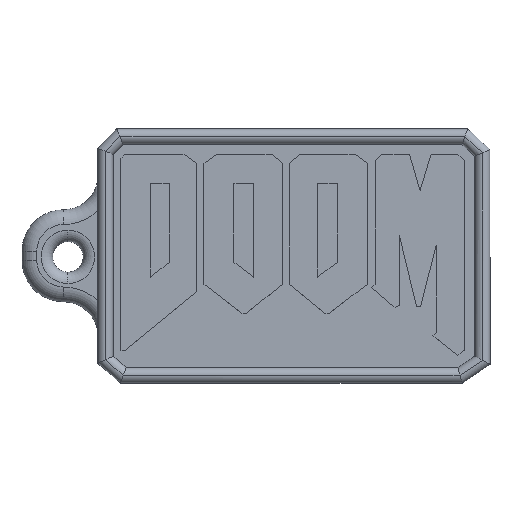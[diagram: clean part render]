
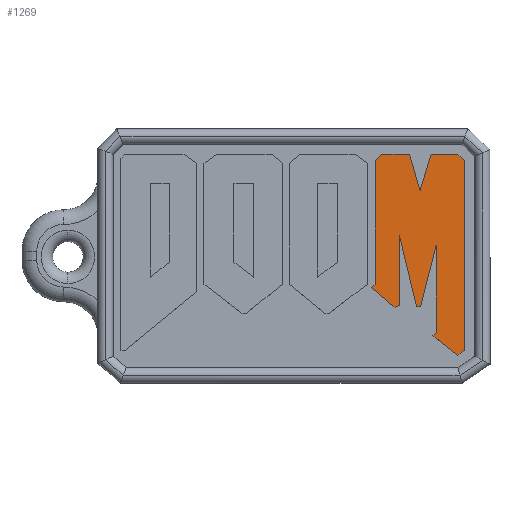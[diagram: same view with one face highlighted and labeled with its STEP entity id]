
A CAD part, top view. The second image highlights one B-rep face of the part: STEP entity #1269.
In plain terms, the highlighted planar face has unit normal (0, 0, 1).
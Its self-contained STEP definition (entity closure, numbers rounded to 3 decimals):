
#31 = CARTESIAN_POINT ( 'NONE',  ( 15.975, -6.193, 2.5 ) ) ;
#70 = VERTEX_POINT ( 'NONE', #1633 ) ;
#80 = VERTEX_POINT ( 'NONE', #1657 ) ;
#99 = VECTOR ( 'NONE', #609, 1000. ) ;
#119 = VERTEX_POINT ( 'NONE', #2086 ) ;
#133 = VECTOR ( 'NONE', #579, 1000. ) ;
#163 = EDGE_CURVE ( 'NONE', #3927, #3951, #297, .T. ) ;
#178 = LINE ( 'NONE', #5466, #288 ) ;
#279 = EDGE_CURVE ( 'NONE', #70, #5205, #639, .T. ) ;
#288 = VECTOR ( 'NONE', #1451, 1000. ) ;
#291 = CARTESIAN_POINT ( 'NONE',  ( 11.403, 13.777, 2.5 ) ) ;
#293 = LINE ( 'NONE', #727, #1464 ) ;
#297 = LINE ( 'NONE', #814, #4945 ) ;
#299 = VECTOR ( 'NONE', #1230, 1000. ) ;
#380 = EDGE_CURVE ( 'NONE', #80, #1588, #5161, .T. ) ;
#445 = CARTESIAN_POINT ( 'NONE',  ( 21.398, 13.777, 2.5 ) ) ;
#458 = EDGE_CURVE ( 'NONE', #2179, #119, #3611, .T. ) ;
#463 = LINE ( 'NONE', #833, #478 ) ;
#464 = CARTESIAN_POINT ( 'NONE',  ( 13.729, -5.975, 2.5 ) ) ;
#478 = VECTOR ( 'NONE', #4050, 1000. ) ;
#483 = EDGE_CURVE ( 'NONE', #1449, #1326, #463, .T. ) ;
#535 = ORIENTED_EDGE ( 'NONE', *, *, #2078, .T. ) ;
#568 = ORIENTED_EDGE ( 'NONE', *, *, #5113, .T. ) ;
#579 = DIRECTION ( 'NONE',  ( -0.72, -0.694, 0. ) ) ;
#609 = DIRECTION ( 'NONE',  ( -1., 0., 0. ) ) ;
#639 = LINE ( 'NONE', #4573, #99 ) ;
#641 = DIRECTION ( 'NONE',  ( 0.247, 0.969, 0. ) ) ;
#727 = CARTESIAN_POINT ( 'NONE',  ( 16.509, -6.193, 2.5 ) ) ;
#746 = DIRECTION ( 'NONE',  ( 0.79, -0.613, 0. ) ) ;
#774 = VECTOR ( 'NONE', #2093, 1000. ) ;
#814 = CARTESIAN_POINT ( 'NONE',  ( 17.879, 13.777, 2.5 ) ) ;
#816 = ORIENTED_EDGE ( 'NONE', *, *, #966, .T. ) ;
#833 = CARTESIAN_POINT ( 'NONE',  ( 18.552, -9.54, 2.5 ) ) ;
#861 = CARTESIAN_POINT ( 'NONE',  ( 22.264, -11.866, 2.5 ) ) ;
#910 = CARTESIAN_POINT ( 'NONE',  ( 10.566, -3.247, 2.5 ) ) ;
#966 = EDGE_CURVE ( 'NONE', #4676, #1449, #2484, .T. ) ;
#1007 = CARTESIAN_POINT ( 'NONE',  ( 11.403, 13.777, 2.5 ) ) ;
#1077 = ORIENTED_EDGE ( 'NONE', *, *, #2814, .T. ) ;
#1230 = DIRECTION ( 'NONE',  ( 0., -1., 0. ) ) ;
#1232 = LINE ( 'NONE', #1646, #5066 ) ;
#1240 = VECTOR ( 'NONE', #2559, 1000. ) ;
#1255 = LINE ( 'NONE', #1728, #1240 ) ;
#1269 = ADVANCED_FACE ( 'NONE', ( #4566 ), #2335, .T. ) ;
#1316 = DIRECTION ( 'NONE',  ( 1., 0., 0. ) ) ;
#1326 = VERTEX_POINT ( 'NONE', #3613 ) ;
#1449 = VERTEX_POINT ( 'NONE', #1498 ) ;
#1451 = DIRECTION ( 'NONE',  ( 0.232, -0.973, 0. ) ) ;
#1464 = VECTOR ( 'NONE', #641, 1000. ) ;
#1466 = CARTESIAN_POINT ( 'NONE',  ( 0., 0., 2.5 ) ) ;
#1498 = CARTESIAN_POINT ( 'NONE',  ( 18.552, -9.54, 2.5 ) ) ;
#1588 = VERTEX_POINT ( 'NONE', #910 ) ;
#1629 = LINE ( 'NONE', #5187, #2574 ) ;
#1633 = CARTESIAN_POINT ( 'NONE',  ( 15.061, 13.777, 2.5 ) ) ;
#1646 = CARTESIAN_POINT ( 'NONE',  ( 21.398, -12.555, 2.5 ) ) ;
#1651 = DIRECTION ( 'NONE',  ( 0.868, 0.496, 0. ) ) ;
#1657 = CARTESIAN_POINT ( 'NONE',  ( 10.566, 12.971, 2.5 ) ) ;
#1728 = CARTESIAN_POINT ( 'NONE',  ( 22.264, -11.866, 2.5 ) ) ;
#1733 = DIRECTION ( 'NONE',  ( 0.783, 0.622, 0. ) ) ;
#1810 = LINE ( 'NONE', #1914, #3202 ) ;
#1839 = ORIENTED_EDGE ( 'NONE', *, *, #4333, .T. ) ;
#1845 = VERTEX_POINT ( 'NONE', #31 ) ;
#1860 = VERTEX_POINT ( 'NONE', #445 ) ;
#1874 = DIRECTION ( 'NONE',  ( 1., 0., 0. ) ) ;
#1914 = CARTESIAN_POINT ( 'NONE',  ( 10.566, -3.247, 2.5 ) ) ;
#2001 = ORIENTED_EDGE ( 'NONE', *, *, #483, .T. ) ;
#2053 = CARTESIAN_POINT ( 'NONE',  ( 10.566, 12.971, 2.5 ) ) ;
#2078 = EDGE_CURVE ( 'NONE', #119, #5408, #1629, .T. ) ;
#2086 = CARTESIAN_POINT ( 'NONE',  ( 13.157, -6.302, 2.5 ) ) ;
#2093 = DIRECTION ( 'NONE',  ( -0.732, 0.681, 0. ) ) ;
#2104 = EDGE_CURVE ( 'NONE', #5400, #4676, #293, .T. ) ;
#2113 = DIRECTION ( 'NONE',  ( -1., 0., 0. ) ) ;
#2161 = ORIENTED_EDGE ( 'NONE', *, *, #380, .T. ) ;
#2179 = VERTEX_POINT ( 'NONE', #5581 ) ;
#2193 = DIRECTION ( 'NONE',  ( -0.279, 0.96, 0. ) ) ;
#2198 = CARTESIAN_POINT ( 'NONE',  ( 16.509, -6.193, 2.5 ) ) ;
#2299 = VERTEX_POINT ( 'NONE', #3697 ) ;
#2325 = ORIENTED_EDGE ( 'NONE', *, *, #2104, .T. ) ;
#2335 = PLANE ( 'NONE',  #3977 ) ;
#2381 = ORIENTED_EDGE ( 'NONE', *, *, #2577, .T. ) ;
#2484 = LINE ( 'NONE', #3458, #299 ) ;
#2493 = EDGE_CURVE ( 'NONE', #1326, #3859, #3459, .T. ) ;
#2559 = DIRECTION ( 'NONE',  ( 0., 1., 0. ) ) ;
#2574 = VECTOR ( 'NONE', #1651, 1000. ) ;
#2577 = EDGE_CURVE ( 'NONE', #5519, #1860, #4327, .T. ) ;
#2579 = DIRECTION ( 'NONE',  ( -0.29, -0.957, 0. ) ) ;
#2614 = VECTOR ( 'NONE', #5126, 1000. ) ;
#2637 = CARTESIAN_POINT ( 'NONE',  ( 10.054, -3.652, 2.5 ) ) ;
#2729 = VECTOR ( 'NONE', #746, 1000. ) ;
#2805 = VECTOR ( 'NONE', #2113, 1000. ) ;
#2814 = EDGE_CURVE ( 'NONE', #5205, #80, #5003, .T. ) ;
#2830 = EDGE_LOOP ( 'NONE', ( #5495, #1077, #2161, #4531, #5777, #535, #4529, #1839, #5334, #2325, #816, #2001, #4738, #3562, #4472, #2381, #568, #5352, #3463 ) ) ;
#2874 = EDGE_CURVE ( 'NONE', #3859, #2952, #1232, .T. ) ;
#2952 = VERTEX_POINT ( 'NONE', #861 ) ;
#3009 = LINE ( 'NONE', #5293, #3828 ) ;
#3067 = VECTOR ( 'NONE', #2193, 1000. ) ;
#3106 = CARTESIAN_POINT ( 'NONE',  ( 16.442, 9.026, 2.5 ) ) ;
#3187 = EDGE_CURVE ( 'NONE', #2952, #5519, #1255, .T. ) ;
#3202 = VECTOR ( 'NONE', #3707, 1000. ) ;
#3256 = CARTESIAN_POINT ( 'NONE',  ( 18.552, 1.828, 2.5 ) ) ;
#3271 = EDGE_CURVE ( 'NONE', #1588, #2179, #1810, .T. ) ;
#3458 = CARTESIAN_POINT ( 'NONE',  ( 18.552, 1.828, 2.5 ) ) ;
#3459 = LINE ( 'NONE', #4741, #2729 ) ;
#3463 = ORIENTED_EDGE ( 'NONE', *, *, #3811, .T. ) ;
#3537 = DIRECTION ( 'NONE',  ( 0., 1., 0. ) ) ;
#3557 = DIRECTION ( 'NONE',  ( 0.761, -0.649, 0. ) ) ;
#3562 = ORIENTED_EDGE ( 'NONE', *, *, #2874, .T. ) ;
#3611 = LINE ( 'NONE', #2637, #5515 ) ;
#3613 = CARTESIAN_POINT ( 'NONE',  ( 18.133, -10.025, 2.5 ) ) ;
#3631 = CARTESIAN_POINT ( 'NONE',  ( 17.879, 13.777, 2.5 ) ) ;
#3668 = VECTOR ( 'NONE', #3537, 1000. ) ;
#3697 = CARTESIAN_POINT ( 'NONE',  ( 13.729, 3.208, 2.5 ) ) ;
#3707 = DIRECTION ( 'NONE',  ( -0.784, -0.621, 0. ) ) ;
#3795 = LINE ( 'NONE', #3878, #2805 ) ;
#3811 = EDGE_CURVE ( 'NONE', #3951, #70, #4015, .T. ) ;
#3828 = VECTOR ( 'NONE', #1316, 1000. ) ;
#3859 = VERTEX_POINT ( 'NONE', #4593 ) ;
#3878 = CARTESIAN_POINT ( 'NONE',  ( 21.398, 13.777, 2.5 ) ) ;
#3927 = VERTEX_POINT ( 'NONE', #3631 ) ;
#3951 = VERTEX_POINT ( 'NONE', #4933 ) ;
#3977 = AXIS2_PLACEMENT_3D ( 'NONE', #1466, #4996, #1874 ) ;
#4015 = LINE ( 'NONE', #3106, #3067 ) ;
#4050 = DIRECTION ( 'NONE',  ( -0.654, -0.757, 0. ) ) ;
#4064 = LINE ( 'NONE', #4953, #3668 ) ;
#4116 = EDGE_CURVE ( 'NONE', #1845, #5400, #3009, .T. ) ;
#4327 = LINE ( 'NONE', #5262, #774 ) ;
#4333 = EDGE_CURVE ( 'NONE', #2299, #1845, #178, .T. ) ;
#4472 = ORIENTED_EDGE ( 'NONE', *, *, #3187, .T. ) ;
#4529 = ORIENTED_EDGE ( 'NONE', *, *, #5772, .T. ) ;
#4531 = ORIENTED_EDGE ( 'NONE', *, *, #3271, .T. ) ;
#4538 = CARTESIAN_POINT ( 'NONE',  ( 22.264, 12.971, 2.5 ) ) ;
#4566 = FACE_OUTER_BOUND ( 'NONE', #2830, .T. ) ;
#4573 = CARTESIAN_POINT ( 'NONE',  ( 15.061, 13.777, 2.5 ) ) ;
#4593 = CARTESIAN_POINT ( 'NONE',  ( 21.398, -12.555, 2.5 ) ) ;
#4676 = VERTEX_POINT ( 'NONE', #3256 ) ;
#4738 = ORIENTED_EDGE ( 'NONE', *, *, #2493, .T. ) ;
#4741 = CARTESIAN_POINT ( 'NONE',  ( 18.133, -10.025, 2.5 ) ) ;
#4933 = CARTESIAN_POINT ( 'NONE',  ( 16.442, 9.026, 2.5 ) ) ;
#4945 = VECTOR ( 'NONE', #2579, 1000. ) ;
#4953 = CARTESIAN_POINT ( 'NONE',  ( 13.729, -5.975, 2.5 ) ) ;
#4996 = DIRECTION ( 'NONE',  ( 0., 0., 1. ) ) ;
#5003 = LINE ( 'NONE', #1007, #133 ) ;
#5066 = VECTOR ( 'NONE', #1733, 1000. ) ;
#5113 = EDGE_CURVE ( 'NONE', #1860, #3927, #3795, .T. ) ;
#5126 = DIRECTION ( 'NONE',  ( 0., -1., 0. ) ) ;
#5161 = LINE ( 'NONE', #2053, #2614 ) ;
#5187 = CARTESIAN_POINT ( 'NONE',  ( 13.157, -6.302, 2.5 ) ) ;
#5205 = VERTEX_POINT ( 'NONE', #291 ) ;
#5262 = CARTESIAN_POINT ( 'NONE',  ( 22.264, 12.971, 2.5 ) ) ;
#5293 = CARTESIAN_POINT ( 'NONE',  ( 15.975, -6.193, 2.5 ) ) ;
#5334 = ORIENTED_EDGE ( 'NONE', *, *, #4116, .T. ) ;
#5352 = ORIENTED_EDGE ( 'NONE', *, *, #163, .T. ) ;
#5400 = VERTEX_POINT ( 'NONE', #2198 ) ;
#5408 = VERTEX_POINT ( 'NONE', #464 ) ;
#5466 = CARTESIAN_POINT ( 'NONE',  ( 13.729, 3.208, 2.5 ) ) ;
#5495 = ORIENTED_EDGE ( 'NONE', *, *, #279, .T. ) ;
#5515 = VECTOR ( 'NONE', #3557, 1000. ) ;
#5519 = VERTEX_POINT ( 'NONE', #4538 ) ;
#5581 = CARTESIAN_POINT ( 'NONE',  ( 10.054, -3.652, 2.5 ) ) ;
#5772 = EDGE_CURVE ( 'NONE', #5408, #2299, #4064, .T. ) ;
#5777 = ORIENTED_EDGE ( 'NONE', *, *, #458, .T. ) ;
